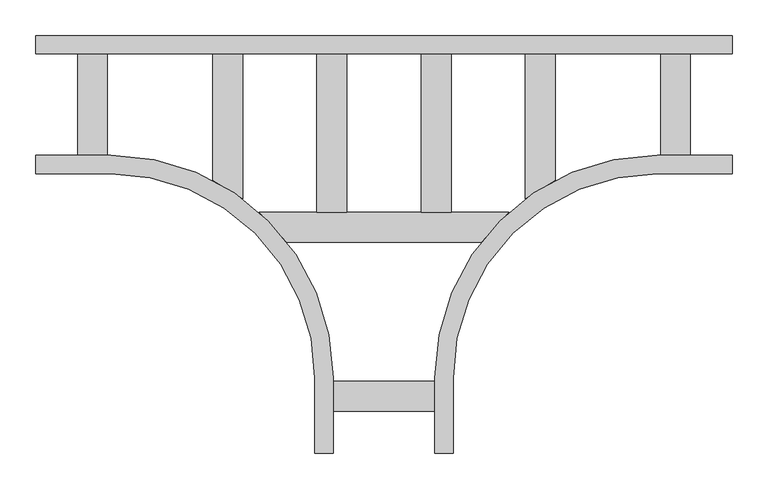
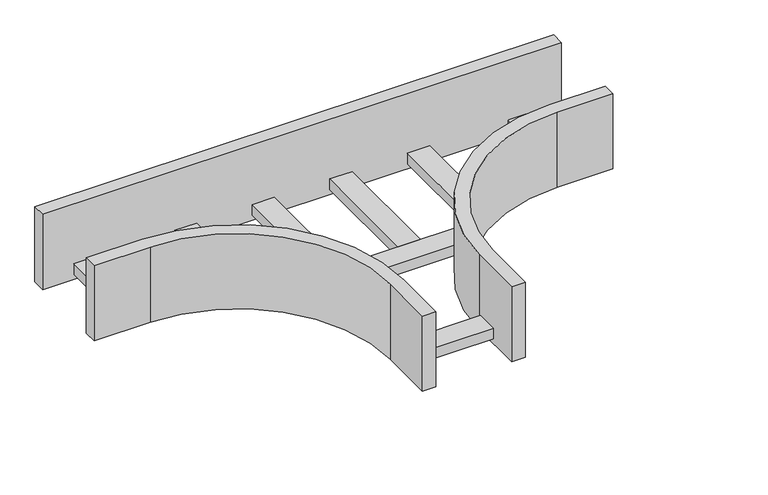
"""IFC4 building model written with IfcOpenShell, lengths in millimetres: cable carrier fitting geometry, Legrand_CableLadder_Swifts_Emerald_Tee-300R-13 : Hot Dip Galvanised (after manufacture)."""

from ifc_helpers import new_model, si_unit, point, frame, frame_2d, origin, place, context, project, spatial, polyline, circle_curve, trimmed, segment, composite_curve, outline, extrude, source, transform, mapped, element, save


def cable_carrier_fitting_78e4e9d0(model_context):
    return source(origin(), model_context, "Body", "SweptSolid", [
        extrude(outline(composite_curve([segment(polyline([(-240.875, 71.5), (-198.875, 71.5), (-198.875, -132.3598019)]), True, "CONTINUOUS"), segment(trimmed(circle_curve(frame_2d((-384.25, -384.25)), 312.75), [point((-198.875, -132.3598019))], [point((-240.875, -106.3000551))], True, "CARTESIAN"), True, "CONTINUOUS"), segment(polyline([(-240.875, -106.3000551), (-240.875, 71.5)]), True, "CONTINUOUS")], self_intersect=False)), frame((0.0, 0.0, -65.0), z_axis=(0.0, 0.0, 1.0), x_axis=(1.0, 0.0, 0.0)), (0.0, 0.0, 1.0), 21.0),
        extrude(outline(composite_curve([segment(polyline([(198.875, 71.5), (240.875, 71.5), (240.875, -106.3000551)]), True, "CONTINUOUS"), segment(trimmed(circle_curve(frame_2d((384.25, -384.25)), 312.75), [point((240.875, -106.3000551))], [point((198.875, -132.3598019))], True, "CARTESIAN"), True, "CONTINUOUS"), segment(polyline([(198.875, -132.3598019), (198.875, 71.5)]), True, "CONTINUOUS")], self_intersect=False)), frame((0.0, 0.0, -65.0), z_axis=(0.0, 0.0, 1.0), x_axis=(1.0, 0.0, 0.0)), (0.0, 0.0, 1.0), 21.0),
        extrude(outline(polyline([(-94.2916667, -151.5), (-94.2916667, 71.5), (-52.2916667, 71.5), (-52.2916667, -151.5), (-94.2916667, -151.5)])), frame((0.0, 0.0, -65.0), z_axis=(0.0, 0.0, 1.0), x_axis=(1.0, 0.0, 0.0)), (0.0, 0.0, 1.0), 21.0),
        extrude(outline(polyline([(52.2916667, -151.5), (52.2916667, 71.5), (94.2916667, 71.5), (94.2916667, -151.5), (52.2916667, -151.5)])), frame((0.0, 0.0, -65.0), z_axis=(0.0, 0.0, 1.0), x_axis=(1.0, 0.0, 0.0)), (0.0, 0.0, 1.0), 21.0),
        extrude(outline(polyline([(71.5, -388.75), (71.5, -430.75), (-71.5, -430.75), (-71.5, -388.75), (71.5, -388.75)])), frame((0.0, 0.0, -65.0), z_axis=(0.0, 0.0, 1.0), x_axis=(1.0, 0.0, 0.0)), (0.0, 0.0, 1.0), 21.0),
        extrude(outline(polyline([(-430.75, -71.5), (-430.75, 71.5), (-388.75, 71.5), (-388.75, -71.5), (-430.75, -71.5)])), frame((0.0, 0.0, -65.0), z_axis=(0.0, 0.0, 1.0), x_axis=(1.0, 0.0, 0.0)), (0.0, 0.0, 1.0), 21.0),
        extrude(outline(polyline([(430.75, -71.5), (388.75, -71.5), (388.75, 71.5), (430.75, 71.5), (430.75, -71.5)])), frame((0.0, 0.0, -65.0), z_axis=(0.0, 0.0, 1.0), x_axis=(1.0, 0.0, 0.0)), (0.0, 0.0, 1.0), 21.0),
        extrude(outline(composite_curve([segment(polyline([(136.4052906, -193.5), (-136.4052906, -193.5)]), True, "CONTINUOUS"), segment(trimmed(circle_curve(frame_2d((-384.25, -384.25)), 312.75), [point((-136.4052906, -193.5))], [point((-175.3481092, -151.5))], True, "CARTESIAN"), True, "CONTINUOUS"), segment(polyline([(-175.3481092, -151.5), (175.3481092, -151.5)]), True, "CONTINUOUS"), segment(trimmed(circle_curve(frame_2d((384.25, -384.25)), 312.75), [point((175.3481092, -151.5))], [point((136.4052906, -193.5))], True, "CARTESIAN"), True, "CONTINUOUS")], self_intersect=False)), frame((0.0, 0.0, -65.0), z_axis=(0.0, 0.0, 1.0), x_axis=(1.0, 0.0, 0.0)), (0.0, 0.0, 1.0), 21.0),
        extrude(outline(composite_curve([segment(polyline([(489.75, -71.5), (489.75, -97.0), (384.25, -97.0)]), True, "CONTINUOUS"), segment(trimmed(circle_curve(frame_2d((384.25, -384.25)), 287.25), [point((384.25, -97.0))], [point((97.0, -384.25))], True, "CARTESIAN"), True, "CONTINUOUS"), segment(polyline([(97.0, -384.25), (97.0, -489.75), (71.5, -489.75), (71.5, -384.25)]), True, "CONTINUOUS"), segment(trimmed(circle_curve(frame_2d((384.25, -384.25)), 312.75), [point((71.5, -384.25))], [point((384.25, -71.5))], False, "CARTESIAN"), True, "CONTINUOUS"), segment(polyline([(384.25, -71.5), (489.75, -71.5)]), True, "CONTINUOUS")], self_intersect=False)), frame((0.0, 0.0, -75.0), z_axis=(0.0, 0.0, 1.0), x_axis=(1.0, 0.0, 0.0)), (0.0, 0.0, 1.0), 150.0),
        extrude(outline(composite_curve([segment(polyline([(-489.75, -97.0), (-489.75, -71.5), (-384.25, -71.5)]), True, "CONTINUOUS"), segment(trimmed(circle_curve(frame_2d((-384.25, -384.25)), 312.75), [point((-384.25, -71.5))], [point((-71.5, -384.25))], False, "CARTESIAN"), True, "CONTINUOUS"), segment(polyline([(-71.5, -384.25), (-71.5, -489.75), (-97.0, -489.75), (-97.0, -384.25)]), True, "CONTINUOUS"), segment(trimmed(circle_curve(frame_2d((-384.25, -384.25)), 287.25), [point((-97.0, -384.25))], [point((-384.25, -97.0))], True, "CARTESIAN"), True, "CONTINUOUS"), segment(polyline([(-384.25, -97.0), (-489.75, -97.0)]), True, "CONTINUOUS")], self_intersect=False)), frame((0.0, 0.0, -75.0), z_axis=(0.0, 0.0, 1.0), x_axis=(1.0, 0.0, 0.0)), (0.0, 0.0, 1.0), 150.0),
        extrude(outline(polyline([(-489.75, 71.5), (-489.75, 97.0), (489.75, 97.0), (489.75, 71.5), (-489.75, 71.5)])), frame((0.0, 0.0, -75.0), z_axis=(0.0, 0.0, 1.0), x_axis=(1.0, 0.0, 0.0)), (0.0, 0.0, 1.0), 150.0),
    ])


if __name__ == "__main__":
    model = new_model("IFC4")
    model_context = context("Model", 3, world=origin())
    ifc_project = project(units=[si_unit("LENGTHUNIT", "METRE", prefix="MILLI")], contexts=[model_context])
    site = spatial("IfcSite", under=ifc_project)
    building = spatial("IfcBuilding", under=site)
    placement = place(None, origin())
    cable_carrier_fitting_shape = cable_carrier_fitting_78e4e9d0(model_context)
    element("IfcCableCarrierFitting", 1, ObjectType="Legrand_CableLadder_Swifts_Emerald_Tee-300R-13 : Hot Dip Galvanised (after manufacture)", at=placement, inside=building, context=model_context, shape_type="MappedRepresentation", body=[
        mapped(cable_carrier_fitting_shape, transform((0.0, 0.0, 0.0), x_axis=(1.0, 0.0, 0.0), y_axis=(0.0, 1.0, 0.0), z_axis=(0.0, 0.0, 1.0))),
    ])
    save(model, "model.ifc")
